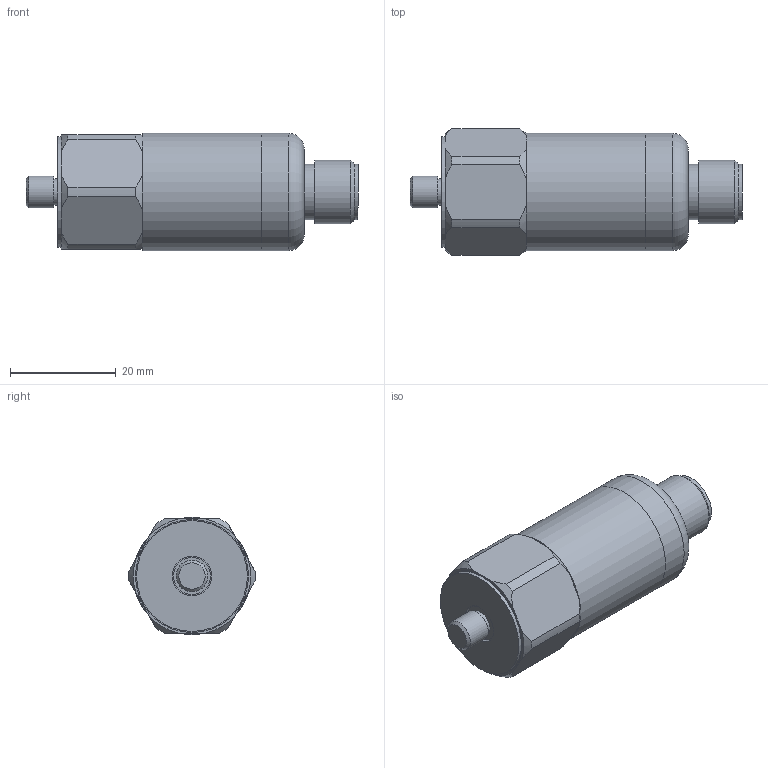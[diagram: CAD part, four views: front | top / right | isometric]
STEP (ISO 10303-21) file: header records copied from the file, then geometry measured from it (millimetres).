
FILE_DESCRIPTION(/* description */ (''),/* implementation_level */ '2;1');
FILE_NAME(/* name */ 'Z:\Engineering\Drawings\3D Library\Assemblies\Website\Premium Top\HS-150 Top M12\HS-150XXX5406.stp',/* time_stamp */ '2023-03-12T11:20:30+00:00',/* author */ ('Ricardo.Peneda'),/* organization */ (''),/* preprocessor_version */ 'ST-DEVELOPER v18.1',/* originating_system */ 'Autodesk Inventor 2021',/* authorisation */ '');
FILE_SCHEMA (('AUTOMOTIVE_DESIGN { 1 0 10303 214 3 1 1 }'));
Length unit declared in the file: inch
Products named in the file (1): HS-150XXX5406_Shrinkwrap_1
Bounding box: 62.89 x 23.99 x 22.2 mm (x, y, z)
Volume: 13173.5 mm3; surface area: 7436.9 mm2
Topology: 3 solids, 3 shells, 71 faces, 184 edges, 134 vertices
Faces by surface type: plane 33, cylinder 25, cone 12, torus 1
Full cylindrical faces by diameter (mm): 5 x2, 5.359 x1, 6 x1, 6.35 x1, 7 x1, 7.5 x1, 9.4 x2, 10.496 x1, 10.5 x1, 12 x1, 15.055 x1, 18 x1, 19.95 x1, 20 x1, 21 x1, 22.2 x2
Entity records: 2363 total; most frequent: CARTESIAN_POINT 437, DIRECTION 413, ORIENTED_EDGE 366, EDGE_CURVE 183, AXIS2_PLACEMENT_3D 182, VERTEX_POINT 134, CIRCLE 110, EDGE_LOOP 87
